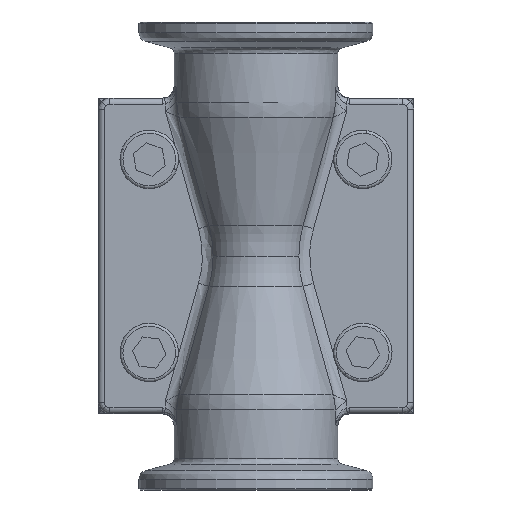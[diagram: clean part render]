
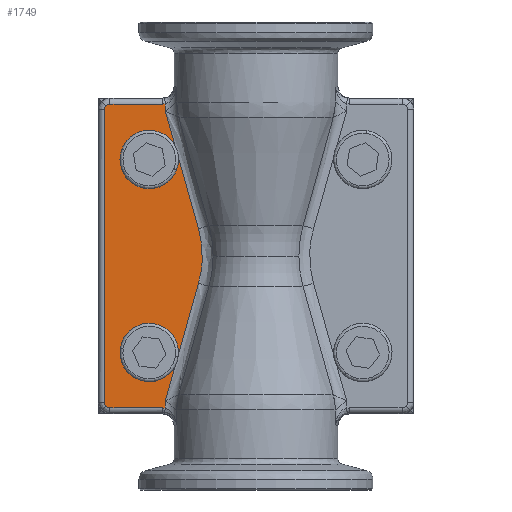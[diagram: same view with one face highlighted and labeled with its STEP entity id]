
A CAD part, front view. The second image highlights one B-rep face of the part: STEP entity #1749.
In plain terms, the highlighted planar face has unit normal (0, -1, 0).
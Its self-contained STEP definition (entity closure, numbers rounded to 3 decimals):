
#840=ELLIPSE('',#5673,1.001,1.);
#841=ELLIPSE('',#5674,1.001,1.);
#842=ELLIPSE('',#5676,1.001,1.);
#843=ELLIPSE('',#5677,1.001,1.);
#1229=B_SPLINE_CURVE_WITH_KNOTS('',3,(#7713,#7714,#7715,#7716,#7717,#7718),
 .UNSPECIFIED.,.F.,.F.,(4,2,4),(0.,0.5,1.),.UNSPECIFIED.);
#1232=B_SPLINE_CURVE_WITH_KNOTS('',3,(#7792,#7793,#7794,#7795,#7796,#7797,
#7798,#7799),.UNSPECIFIED.,.F.,.F.,(4,2,2,4),(0.,0.25,0.5,1.),
 .UNSPECIFIED.);
#1233=B_SPLINE_CURVE_WITH_KNOTS('',3,(#7878,#7879,#7880,#7881,#7882,#7883),
 .UNSPECIFIED.,.F.,.F.,(4,2,4),(0.,0.5,1.),.UNSPECIFIED.);
#1245=B_SPLINE_CURVE_WITH_KNOTS('',3,(#8939,#8940,#8941,#8942),
 .UNSPECIFIED.,.F.,.F.,(4,4),(0.,1.),.UNSPECIFIED.);
#1249=B_SPLINE_CURVE_WITH_KNOTS('',3,(#9208,#9209,#9210,#9211),
 .UNSPECIFIED.,.F.,.F.,(4,4),(0.,1.),.UNSPECIFIED.);
#1519=FACE_BOUND('',#2362,.T.);
#1520=FACE_BOUND('',#2363,.T.);
#1521=FACE_BOUND('',#2364,.T.);
#1634=PLANE('',#5681);
#1749=ADVANCED_FACE('',(#1519,#1520,#1521),#1634,.T.);
#2362=EDGE_LOOP('',(#3089,#3090));
#2363=EDGE_LOOP('',(#3091,#3092));
#2364=EDGE_LOOP('',(#3093,#3094,#3095,#3096,#3097,#3098,#3099,#3100,#3101,
#3102,#3103,#3104,#3105,#3106));
#2630=CIRCLE('',#5652,3.5);
#2632=CIRCLE('',#5654,3.5);
#2640=CIRCLE('',#5679,3.5);
#2641=CIRCLE('',#5680,3.5);
#3089=ORIENTED_EDGE('',*,*,#4724,.T.);
#3090=ORIENTED_EDGE('',*,*,#4725,.T.);
#3091=ORIENTED_EDGE('',*,*,#4631,.T.);
#3092=ORIENTED_EDGE('',*,*,#4627,.T.);
#3093=ORIENTED_EDGE('',*,*,#4726,.F.);
#3094=ORIENTED_EDGE('',*,*,#4727,.F.);
#3095=ORIENTED_EDGE('',*,*,#4722,.T.);
#3096=ORIENTED_EDGE('',*,*,#4720,.F.);
#3097=ORIENTED_EDGE('',*,*,#4718,.F.);
#3098=ORIENTED_EDGE('',*,*,#4716,.F.);
#3099=ORIENTED_EDGE('',*,*,#4714,.F.);
#3100=ORIENTED_EDGE('',*,*,#4712,.F.);
#3101=ORIENTED_EDGE('',*,*,#4710,.T.);
#3102=ORIENTED_EDGE('',*,*,#4709,.T.);
#3103=ORIENTED_EDGE('',*,*,#4701,.F.);
#3104=ORIENTED_EDGE('',*,*,#4669,.F.);
#3105=ORIENTED_EDGE('',*,*,#4673,.F.);
#3106=ORIENTED_EDGE('',*,*,#4675,.F.);
#4193=VERTEX_POINT('',#7333);
#4195=VERTEX_POINT('',#7337);
#4225=VERTEX_POINT('',#7719);
#4226=VERTEX_POINT('',#7720);
#4227=VERTEX_POINT('',#7791);
#4228=VERTEX_POINT('',#7877);
#4240=VERTEX_POINT('',#8693);
#4243=VERTEX_POINT('',#8938);
#4244=VERTEX_POINT('',#8972);
#4245=VERTEX_POINT('',#8982);
#4246=VERTEX_POINT('',#9033);
#4247=VERTEX_POINT('',#9084);
#4248=VERTEX_POINT('',#9091);
#4249=VERTEX_POINT('',#9142);
#4250=VERTEX_POINT('',#9193);
#4251=VERTEX_POINT('',#9203);
#4252=VERTEX_POINT('',#9204);
#4253=VERTEX_POINT('',#9207);
#4627=EDGE_CURVE('',#4193,#4195,#2630,.T.);
#4631=EDGE_CURVE('',#4195,#4193,#2632,.T.);
#4669=EDGE_CURVE('',#4225,#4226,#1229,.T.);
#4673=EDGE_CURVE('',#4227,#4225,#1232,.T.);
#4675=EDGE_CURVE('',#4228,#4227,#1233,.T.);
#4701=EDGE_CURVE('',#4226,#4240,#5279,.T.);
#4709=EDGE_CURVE('',#4243,#4240,#1245,.T.);
#4710=EDGE_CURVE('',#4244,#4243,#5280,.T.);
#4712=EDGE_CURVE('',#4244,#4245,#840,.T.);
#4714=EDGE_CURVE('',#4245,#4246,#841,.T.);
#4716=EDGE_CURVE('',#4246,#4247,#5281,.T.);
#4718=EDGE_CURVE('',#4247,#4248,#842,.T.);
#4720=EDGE_CURVE('',#4248,#4249,#843,.T.);
#4722=EDGE_CURVE('',#4250,#4249,#5282,.T.);
#4724=EDGE_CURVE('',#4251,#4252,#2640,.T.);
#4725=EDGE_CURVE('',#4252,#4251,#2641,.T.);
#4726=EDGE_CURVE('',#4253,#4228,#5283,.T.);
#4727=EDGE_CURVE('',#4250,#4253,#1249,.T.);
#5279=LINE('',#8692,#5467);
#5280=LINE('',#8971,#5468);
#5281=LINE('',#9083,#5469);
#5282=LINE('',#9192,#5470);
#5283=LINE('',#9206,#5471);
#5467=VECTOR('',#6170,1.);
#5468=VECTOR('',#6172,1.);
#5469=VECTOR('',#6179,1.);
#5470=VECTOR('',#6186,1.);
#5471=VECTOR('',#6193,1.);
#5652=AXIS2_PLACEMENT_3D('',#7338,#6106,#6107);
#5654=AXIS2_PLACEMENT_3D('',#7351,#6115,#6116);
#5673=AXIS2_PLACEMENT_3D('',#8981,#6175,#6176);
#5674=AXIS2_PLACEMENT_3D('',#9032,#6177,#6178);
#5676=AXIS2_PLACEMENT_3D('',#9090,#6182,#6183);
#5677=AXIS2_PLACEMENT_3D('',#9141,#6184,#6185);
#5679=AXIS2_PLACEMENT_3D('',#9202,#6189,#6190);
#5680=AXIS2_PLACEMENT_3D('',#9205,#6191,#6192);
#5681=AXIS2_PLACEMENT_3D('',#9212,#6194,#6195);
#6106=DIRECTION('',(0.,1.,0.));
#6107=DIRECTION('',(0.,0.,1.));
#6115=DIRECTION('',(0.,1.,0.));
#6116=DIRECTION('',(0.,0.,-1.));
#6170=DIRECTION('',(0.,0.,-1.));
#6172=DIRECTION('',(1.,0.,0.));
#6175=DIRECTION('',(0.,1.,0.));
#6176=DIRECTION('',(0.707,0.,0.707));
#6177=DIRECTION('',(0.,1.,0.));
#6178=DIRECTION('',(0.707,0.,0.707));
#6179=DIRECTION('',(0.,0.,1.));
#6182=DIRECTION('',(0.,1.,0.));
#6183=DIRECTION('',(0.707,0.,-0.707));
#6184=DIRECTION('',(0.,1.,0.));
#6185=DIRECTION('',(0.707,0.,-0.707));
#6186=DIRECTION('',(-1.,0.,0.));
#6189=DIRECTION('',(0.,1.,0.));
#6190=DIRECTION('',(0.,0.,-1.));
#6191=DIRECTION('',(0.,1.,0.));
#6192=DIRECTION('',(0.,0.,1.));
#6193=DIRECTION('',(0.,0.,-1.));
#6194=DIRECTION('',(0.,-1.,0.));
#6195=DIRECTION('',(0.,0.,-1.));
#7333=CARTESIAN_POINT('',(-18.25,-2.,20.));
#7337=CARTESIAN_POINT('',(-18.25,-2.,13.));
#7338=CARTESIAN_POINT('',(-18.25,-2.,16.5));
#7351=CARTESIAN_POINT('',(-18.25,-2.,16.5));
#7713=CARTESIAN_POINT('',(-9.838,-2.,-4.659));
#7714=CARTESIAN_POINT('',(-10.804,-2.,-7.998));
#7715=CARTESIAN_POINT('',(-11.752,-2.,-11.343));
#7716=CARTESIAN_POINT('',(-13.633,-2.,-18.037));
#7717=CARTESIAN_POINT('',(-14.565,-2.,-21.386));
#7718=CARTESIAN_POINT('',(-15.492,-2.,-24.737));
#7719=CARTESIAN_POINT('',(-9.838,-2.,-4.659));
#7720=CARTESIAN_POINT('',(-15.492,-2.,-24.737));
#7791=CARTESIAN_POINT('',(-9.838,-2.,4.659));
#7792=CARTESIAN_POINT('',(-9.838,-2.,4.659));
#7793=CARTESIAN_POINT('',(-9.618,-2.,3.897));
#7794=CARTESIAN_POINT('',(-9.451,-2.,3.126));
#7795=CARTESIAN_POINT('',(-9.228,-2.,1.566));
#7796=CARTESIAN_POINT('',(-9.172,-2.,0.771));
#7797=CARTESIAN_POINT('',(-9.174,-2.,-1.588));
#7798=CARTESIAN_POINT('',(-9.398,-2.,-3.136));
#7799=CARTESIAN_POINT('',(-9.838,-2.,-4.659));
#7877=CARTESIAN_POINT('',(-15.492,-2.,24.737));
#7878=CARTESIAN_POINT('',(-15.492,-2.,24.737));
#7879=CARTESIAN_POINT('',(-14.565,-2.,21.386));
#7880=CARTESIAN_POINT('',(-13.633,-2.,18.037));
#7881=CARTESIAN_POINT('',(-11.752,-2.,11.343));
#7882=CARTESIAN_POINT('',(-10.804,-2.,7.998));
#7883=CARTESIAN_POINT('',(-9.838,-2.,4.659));
#8692=CARTESIAN_POINT('',(-15.492,-2.,-24.737));
#8693=CARTESIAN_POINT('',(-15.492,-2.,-26.001));
#8938=CARTESIAN_POINT('',(-15.962,-2.,-25.964));
#8939=CARTESIAN_POINT('',(-15.962,-2.,-25.964));
#8940=CARTESIAN_POINT('',(-15.804,-2.,-25.964));
#8941=CARTESIAN_POINT('',(-15.648,-2.,-25.977));
#8942=CARTESIAN_POINT('',(-15.492,-2.,-26.001));
#8971=CARTESIAN_POINT('',(-24.965,-2.,-25.964));
#8972=CARTESIAN_POINT('',(-24.965,-2.,-25.964));
#8981=CARTESIAN_POINT('',(-24.964,-2.,-24.964));
#8982=CARTESIAN_POINT('',(-25.672,-2.,-25.672));
#9032=CARTESIAN_POINT('',(-24.964,-2.,-24.964));
#9033=CARTESIAN_POINT('',(-25.964,-2.,-24.965));
#9083=CARTESIAN_POINT('',(-25.964,-2.,-24.965));
#9084=CARTESIAN_POINT('',(-25.964,-2.,24.965));
#9090=CARTESIAN_POINT('',(-24.964,-2.,24.964));
#9091=CARTESIAN_POINT('',(-25.672,-2.,25.672));
#9141=CARTESIAN_POINT('',(-24.964,-2.,24.964));
#9142=CARTESIAN_POINT('',(-24.965,-2.,25.964));
#9192=CARTESIAN_POINT('',(-15.962,-2.,25.964));
#9193=CARTESIAN_POINT('',(-15.962,-2.,25.964));
#9202=CARTESIAN_POINT('',(-18.25,-2.,-16.5));
#9203=CARTESIAN_POINT('',(-18.25,-2.,-20.));
#9204=CARTESIAN_POINT('',(-18.25,-2.,-13.));
#9205=CARTESIAN_POINT('',(-18.25,-2.,-16.5));
#9206=CARTESIAN_POINT('',(-15.492,-2.,26.001));
#9207=CARTESIAN_POINT('',(-15.492,-2.,26.001));
#9208=CARTESIAN_POINT('',(-15.962,-2.,25.964));
#9209=CARTESIAN_POINT('',(-15.804,-2.,25.964));
#9210=CARTESIAN_POINT('',(-15.648,-2.,25.977));
#9211=CARTESIAN_POINT('',(-15.492,-2.,26.001));
#9212=CARTESIAN_POINT('',(-27.,-2.,28.601));
